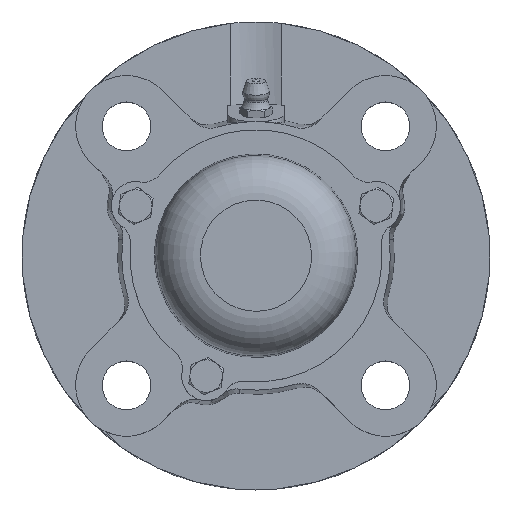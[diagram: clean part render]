
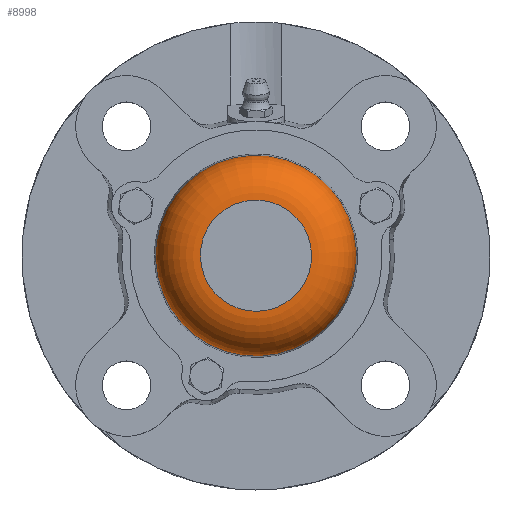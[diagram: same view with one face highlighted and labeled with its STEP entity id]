
A CAD part, top view. The second image highlights one B-rep face of the part: STEP entity #8998.
In plain terms, the highlighted toroidal (fillet/blend) face has major radius 13.666 mm and minor radius 11 mm.
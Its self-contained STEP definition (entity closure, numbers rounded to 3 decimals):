
#8971=CARTESIAN_POINT('',(0.0,0.0,11.));
#8972=DIRECTION('',(0.0,0.0,-1.0));
#8973=DIRECTION('',(-1.0,0.0,0.0));
#8974=AXIS2_PLACEMENT_3D('',#8971,#8972,#8973);
#8975=TOROIDAL_SURFACE('',#8974,13.666,11.0);
#8976=CARTESIAN_POINT('',(-13.666,0.0,22.0));
#8977=VERTEX_POINT('',#8976);
#8978=CARTESIAN_POINT('',(0.0,0.0,22.0));
#8979=DIRECTION('',(0.0,0.0,-1.0));
#8980=DIRECTION('',(1.0,0.0,0.0));
#8981=AXIS2_PLACEMENT_3D('',#8978,#8979,#8980);
#8982=CIRCLE('',#8981,13.666);
#8983=EDGE_CURVE('',#8977,#8977,#8982,.T.);
#8984=ORIENTED_EDGE('',*,*,#8983,.T.);
#8985=EDGE_LOOP('',(#8984));
#8986=FACE_OUTER_BOUND('',#8985,.T.);
#8987=CARTESIAN_POINT('',(-24.645,0.,11.686));
#8988=VERTEX_POINT('',#8987);
#8989=CARTESIAN_POINT('',(0.0,0.0,11.686));
#8990=DIRECTION('',(0.0,0.0,1.0));
#8991=DIRECTION('',(1.0,0.0,0.0));
#8992=AXIS2_PLACEMENT_3D('',#8989,#8990,#8991);
#8993=CIRCLE('',#8992,24.645);
#8994=EDGE_CURVE('',#8988,#8988,#8993,.T.);
#8995=ORIENTED_EDGE('',*,*,#8994,.T.);
#8996=EDGE_LOOP('',(#8995));
#8997=FACE_BOUND('',#8996,.T.);
#8998=ADVANCED_FACE('',(#8986,#8997),#8975,.T.);
